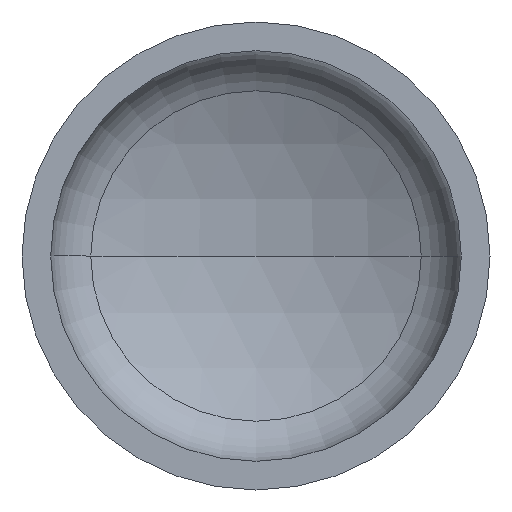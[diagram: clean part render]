
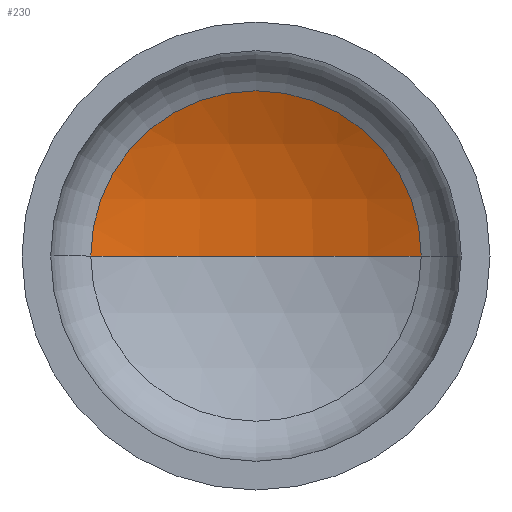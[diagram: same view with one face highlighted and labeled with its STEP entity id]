
A CAD part, front view. The second image highlights one B-rep face of the part: STEP entity #230.
In plain terms, the highlighted spherical face has radius 1200 mm.
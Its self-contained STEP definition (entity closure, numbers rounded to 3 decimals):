
#10 = AXIS2_PLACEMENT_3D ( 'NONE', #166, #330, #377 ) ;
#13 = AXIS2_PLACEMENT_3D ( 'NONE', #173, #46, #275 ) ;
#20 = AXIS2_PLACEMENT_3D ( 'NONE', #161, #156, #158 ) ;
#22 = EDGE_LOOP ( 'NONE', ( #123, #48, #35 ) ) ;
#26 = CARTESIAN_POINT ( 'NONE',  ( 0., -770.469, 0. ) ) ;
#35 = ORIENTED_EDGE ( 'NONE', *, *, #350, .T. ) ;
#46 = DIRECTION ( 'NONE',  ( 0., 0., 1. ) ) ;
#48 = ORIENTED_EDGE ( 'NONE', *, *, #340, .T. ) ;
#55 = AXIS2_PLACEMENT_3D ( 'NONE', #26, #157, #138 ) ;
#98 = CIRCLE ( 'NONE', #10, 529.485 ) ;
#100 = VERTEX_POINT ( 'NONE', #308 ) ;
#122 = VERTEX_POINT ( 'NONE', #220 ) ;
#123 = ORIENTED_EDGE ( 'NONE', *, *, #347, .F. ) ;
#138 = DIRECTION ( 'NONE',  ( -1., 0., 0. ) ) ;
#156 = DIRECTION ( 'NONE',  ( 0., 0., -1. ) ) ;
#157 = DIRECTION ( 'NONE',  ( 0., 0., -1. ) ) ;
#158 = DIRECTION ( 'NONE',  ( -1., 0., 0. ) ) ;
#161 = CARTESIAN_POINT ( 'NONE',  ( 0., -770.469, 0. ) ) ;
#166 = CARTESIAN_POINT ( 'NONE',  ( 0., 306.4, 0. ) ) ;
#173 = CARTESIAN_POINT ( 'NONE',  ( 0., -770.469, 0. ) ) ;
#186 = CIRCLE ( 'NONE', #13, 1200. ) ;
#220 = CARTESIAN_POINT ( 'NONE',  ( 0., 429.531, 0. ) ) ;
#230 = ADVANCED_FACE ( 'NONE', ( #392 ), #353, .F. ) ;
#255 = CIRCLE ( 'NONE', #20, 1200. ) ;
#256 = CARTESIAN_POINT ( 'NONE',  ( 529.485, 306.4, 0. ) ) ;
#275 = DIRECTION ( 'NONE',  ( 1., 0., 0. ) ) ;
#293 = VERTEX_POINT ( 'NONE', #256 ) ;
#308 = CARTESIAN_POINT ( 'NONE',  ( -529.485, 306.4, 0. ) ) ;
#330 = DIRECTION ( 'NONE',  ( 0., -1., 0. ) ) ;
#340 = EDGE_CURVE ( 'NONE', #122, #293, #255, .T. ) ;
#347 = EDGE_CURVE ( 'NONE', #122, #100, #186, .T. ) ;
#350 = EDGE_CURVE ( 'NONE', #293, #100, #98, .T. ) ;
#353 = SPHERICAL_SURFACE ( 'NONE', #55, 1200. ) ;
#377 = DIRECTION ( 'NONE',  ( 1., 0., 0. ) ) ;
#392 = FACE_OUTER_BOUND ( 'NONE', #22, .T. ) ;
